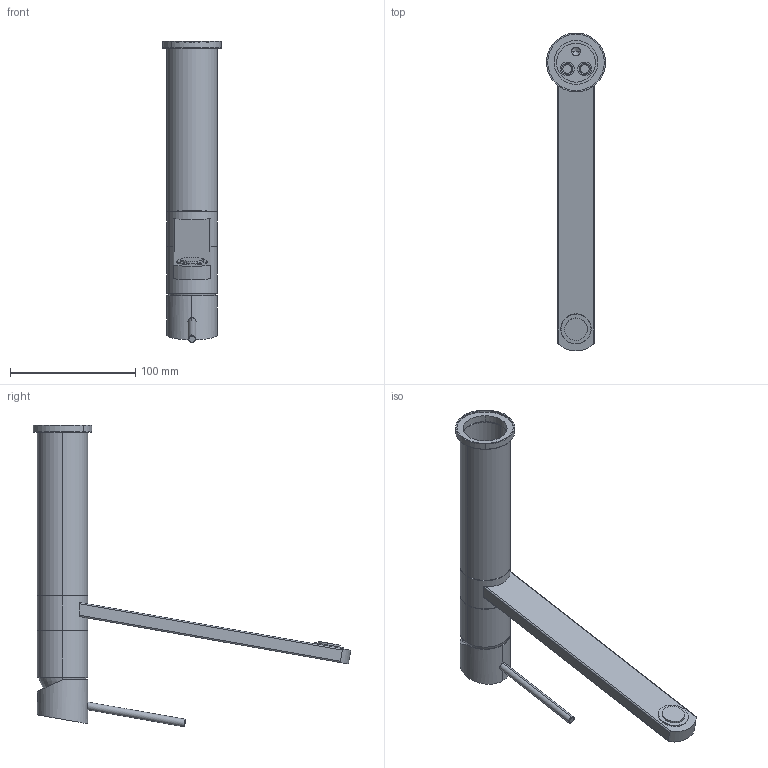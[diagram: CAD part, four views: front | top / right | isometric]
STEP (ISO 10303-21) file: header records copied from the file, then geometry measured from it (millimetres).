
FILE_DESCRIPTION (( 'STEP AP203' ), '1' );
FILE_NAME ('KT22B.STEP', '2017-06-09T08:09:38', ( '' ), ( '' ), 'SwSTEP 2.0', 'SolidWorks 2014', '' );
FILE_SCHEMA (( 'CONFIG_CONTROL_DESIGN' ));
Length unit declared in the file: millimetre
Products named in the file (16): GAL000201; AERA24SLIMSSR; GAL000401; EU0501_0; EU0502_0; TAPPHITO01; GAL050501; EU0928_0; CARTCUC002; GAL708256; GAL050531; EU0503_0; KT22B; GAL555249; EU0500_1; GRANO M4X5 ACCIAIO
Assembly tree (17 placements, depth 2):
  KT22B
    EU0503_0
    GAL708256
    GAL050531  x2
    GAL000401
    GAL050501  x2
    GAL555249
    EU0502_0
    EU0501_0
    EU0500_1
    CARTCUC002
    GAL000201
    GRANO M4X5 ACCIAIO
    TAPPHITO01
    EU0928_0
    AERA24SLIMSSR
Bounding box: 46.82 x 253.1 x 240.15 mm (x, y, z)
Volume: 187171.3 mm3; surface area: 122205.4 mm2
Topology: 18 solids, 18 shells, 433 faces, 962 edges, 600 vertices
Faces by surface type: cylinder 193, plane 146, cone 59, torus 29, bspline 6
Entity records: 14273 total; most frequent: CARTESIAN_POINT 3257, DIRECTION 2088, ORIENTED_EDGE 1794, EDGE_CURVE 897, AXIS2_PLACEMENT_3D 852, VERTEX_POINT 568, EDGE_LOOP 485, CIRCLE 430
